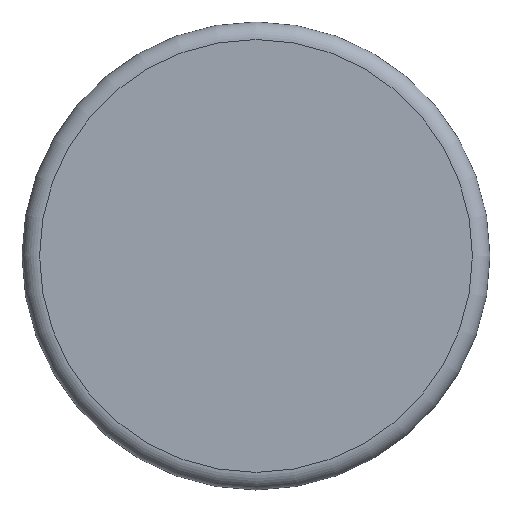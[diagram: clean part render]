
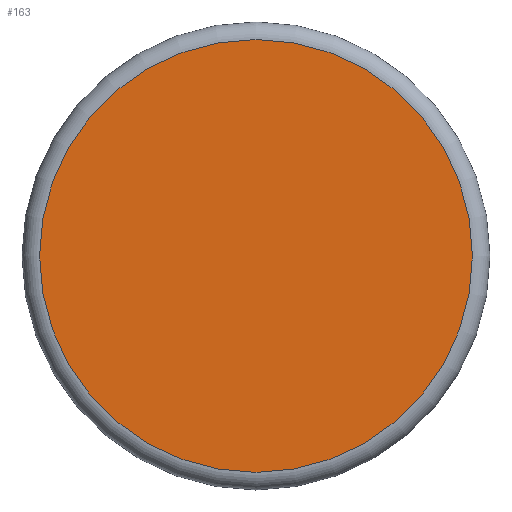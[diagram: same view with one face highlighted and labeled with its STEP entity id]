
A CAD part, top view. The second image highlights one B-rep face of the part: STEP entity #163.
In plain terms, the highlighted planar face has unit normal (0, 0, 1).
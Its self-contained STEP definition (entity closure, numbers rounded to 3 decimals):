
#66 = TOROIDAL_SURFACE('',#67,5.55,0.45);
#67 = AXIS2_PLACEMENT_3D('',#68,#69,#70);
#68 = CARTESIAN_POINT('',(0.,0.,0.55));
#69 = DIRECTION('',(0.,0.,1.));
#70 = DIRECTION('',(1.,0.,-0.));
#110 = VERTEX_POINT('',#111);
#111 = CARTESIAN_POINT('',(5.55,0.,1.));
#133 = EDGE_CURVE('',#110,#110,#134,.T.);
#134 = SURFACE_CURVE('',#135,(#140,#147),.PCURVE_S1.);
#135 = CIRCLE('',#136,5.55);
#136 = AXIS2_PLACEMENT_3D('',#137,#138,#139);
#137 = CARTESIAN_POINT('',(0.,0.,1.));
#138 = DIRECTION('',(0.,0.,1.));
#139 = DIRECTION('',(1.,0.,-0.));
#140 = PCURVE('',#66,#141);
#141 = DEFINITIONAL_REPRESENTATION('',(#142),#146);
#142 = LINE('',#143,#144);
#143 = CARTESIAN_POINT('',(0.,1.571));
#144 = VECTOR('',#145,1.);
#145 = DIRECTION('',(1.,0.));
#146 = ( GEOMETRIC_REPRESENTATION_CONTEXT(2) 
PARAMETRIC_REPRESENTATION_CONTEXT() REPRESENTATION_CONTEXT('2D SPACE',''
  ) );
#147 = PCURVE('',#148,#153);
#148 = PLANE('',#149);
#149 = AXIS2_PLACEMENT_3D('',#150,#151,#152);
#150 = CARTESIAN_POINT('',(0.,0.,1.));
#151 = DIRECTION('',(0.,0.,1.));
#152 = DIRECTION('',(1.,0.,-0.));
#153 = DEFINITIONAL_REPRESENTATION('',(#154),#158);
#154 = CIRCLE('',#155,5.55);
#155 = AXIS2_PLACEMENT_2D('',#156,#157);
#156 = CARTESIAN_POINT('',(0.,0.));
#157 = DIRECTION('',(1.,0.));
#158 = ( GEOMETRIC_REPRESENTATION_CONTEXT(2) 
PARAMETRIC_REPRESENTATION_CONTEXT() REPRESENTATION_CONTEXT('2D SPACE',''
  ) );
#163 = ADVANCED_FACE('',(#164),#148,.T.);
#164 = FACE_BOUND('',#165,.T.);
#165 = EDGE_LOOP('',(#166));
#166 = ORIENTED_EDGE('',*,*,#133,.T.);
